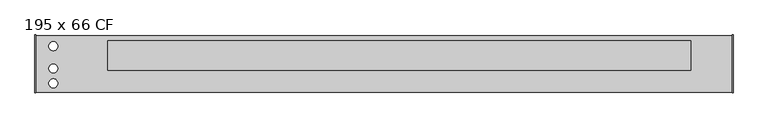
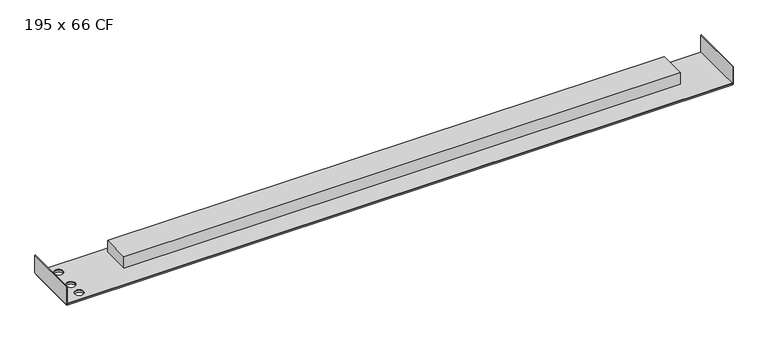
"""IFC4 building model written with IfcOpenShell, lengths in millimetres: proxy geometry, Mohlenhof_Внутрипольный конвектор_QSKM CF : 195 x 66 CF."""

from ifc_helpers import new_model, si_unit, point, frame, frame_2d, origin, place, context, project, spatial, polyline, circle_curve, trimmed, segment, composite_curve, outline, extrude, source, transform, mapped, element, save


def proxy_195_x_66_cf_01404605(model_context):
    return source(origin(), model_context, "Body", "SweptSolid", [
        extrude(outline(polyline([(1173.0, -104.499991), (1173.0, -290.5), (-1173.0, -290.5), (-1173.0, -104.499991), (1173.0, -104.499991)]), holes=[composite_curve([segment(trimmed(circle_curve(frame_2d((-1113.0, -138.0)), 15.0), [point((-1128.0, -138.0))], [point((-1098.0, -138.0))], True, "CARTESIAN"), True, "CONTINUOUS"), segment(trimmed(circle_curve(frame_2d((-1113.0, -138.0)), 15.0), [point((-1098.0, -138.0))], [point((-1128.0, -138.0))], True, "CARTESIAN"), True, "CONTINUOUS")], self_intersect=False), composite_curve([segment(trimmed(circle_curve(frame_2d((-1113.0, -213.0)), 15.0), [point((-1128.0, -213.0))], [point((-1098.0, -213.0))], True, "CARTESIAN"), True, "CONTINUOUS"), segment(trimmed(circle_curve(frame_2d((-1113.0, -213.0)), 15.0), [point((-1098.0, -213.0))], [point((-1128.0, -213.0))], True, "CARTESIAN"), True, "CONTINUOUS")], self_intersect=False), composite_curve([segment(trimmed(circle_curve(frame_2d((-1113.0, -263.0)), 15.0), [point((-1128.0, -263.0))], [point((-1098.0, -263.0))], True, "CARTESIAN"), True, "CONTINUOUS"), segment(trimmed(circle_curve(frame_2d((-1113.0, -263.0)), 15.0), [point((-1098.0, -263.0))], [point((-1128.0, -263.0))], True, "CARTESIAN"), True, "CONTINUOUS")], self_intersect=False)]), frame((0.0, 0.0, -71.5), z_axis=(0.0, 0.0, 1.0), x_axis=(1.0, 0.0, 0.0)), (0.0, 0.0, 1.0), 6.3),
        extrude(outline(polyline([(1173.0, -102.0), (1173.0, -293.0), (-1173.0, -293.0), (-1173.0, -102.0), (1173.0, -102.0)]), holes=[composite_curve([segment(trimmed(circle_curve(frame_2d((-1113.0, -138.0)), 15.0), [point((-1128.0, -138.0))], [point((-1098.0, -138.0))], True, "CARTESIAN"), True, "CONTINUOUS"), segment(trimmed(circle_curve(frame_2d((-1113.0, -138.0)), 15.0), [point((-1098.0, -138.0))], [point((-1128.0, -138.0))], True, "CARTESIAN"), True, "CONTINUOUS")], self_intersect=False), composite_curve([segment(trimmed(circle_curve(frame_2d((-1113.0, -213.0)), 15.0), [point((-1128.0, -213.0))], [point((-1098.0, -213.0))], True, "CARTESIAN"), True, "CONTINUOUS"), segment(trimmed(circle_curve(frame_2d((-1113.0, -213.0)), 15.0), [point((-1098.0, -213.0))], [point((-1128.0, -213.0))], True, "CARTESIAN"), True, "CONTINUOUS")], self_intersect=False), composite_curve([segment(trimmed(circle_curve(frame_2d((-1113.0, -263.0)), 15.0), [point((-1128.0, -263.0))], [point((-1098.0, -263.0))], True, "CARTESIAN"), True, "CONTINUOUS"), segment(trimmed(circle_curve(frame_2d((-1113.0, -263.0)), 15.0), [point((-1098.0, -263.0))], [point((-1128.0, -263.0))], True, "CARTESIAN"), True, "CONTINUOUS")], self_intersect=False)]), frame((0.0, 0.0, -65.2), z_axis=(0.0, 0.0, 1.0), x_axis=(1.0, 0.0, 0.0)), (0.0, 0.0, 1.0), 2.7),
        extrude(outline(polyline([(1033.0, -119.25), (1033.0, -219.25), (-930.0, -219.25), (-930.0, -119.25), (1033.0, -119.25)])), frame((0.0, 0.0, -62.5), z_axis=(0.0, 0.0, 1.0), x_axis=(1.0, 0.0, 0.0)), (0.0, 0.0, 1.0), 43.0),
        extrude(outline(polyline([(1175.0, -295.0), (1173.0, -295.0), (1173.0, -100.0), (1175.0, -100.0), (1175.0, -295.0)])), frame((0.0, 0.0, -66.5), z_axis=(0.0, 0.0, 1.0), x_axis=(1.0, 0.0, 0.0)), (0.0, 0.0, 1.0), 66.5),
        extrude(outline(polyline([(-1173.0, -100.0), (-1173.0, -295.0), (-1175.0, -295.0), (-1175.0, -100.0), (-1173.0, -100.0)])), frame((0.0, 0.0, -66.5), z_axis=(0.0, 0.0, 1.0), x_axis=(1.0, 0.0, 0.0)), (0.0, 0.0, 1.0), 66.5),
    ])


if __name__ == "__main__":
    model = new_model("IFC4")
    model_context = context("Model", 3, world=origin())
    ifc_project = project(units=[si_unit("LENGTHUNIT", "METRE", prefix="MILLI")], contexts=[model_context])
    site = spatial("IfcSite", under=ifc_project)
    building = spatial("IfcBuilding", under=site)
    placement = place(None, origin())
    proxy_195_x_66_cf_shape = proxy_195_x_66_cf_01404605(model_context)
    element("IfcBuildingElementProxy", 1, Name="Mohlenhof_Внутрипольный конвектор_QSKM CF : 195 x 66 CF", ObjectType="Mohlenhof_Внутрипольный конвектор_QSKM CF : 195 x 66 CF", at=placement, inside=building, context=model_context, shape_type="MappedRepresentation", body=[
        mapped(proxy_195_x_66_cf_shape, transform((0.0, 0.0, 0.0), x_axis=(1.0, 0.0, 0.0), y_axis=(0.0, 1.0, 0.0), z_axis=(0.0, 0.0, 1.0))),
    ])
    save(model, "model.ifc")
